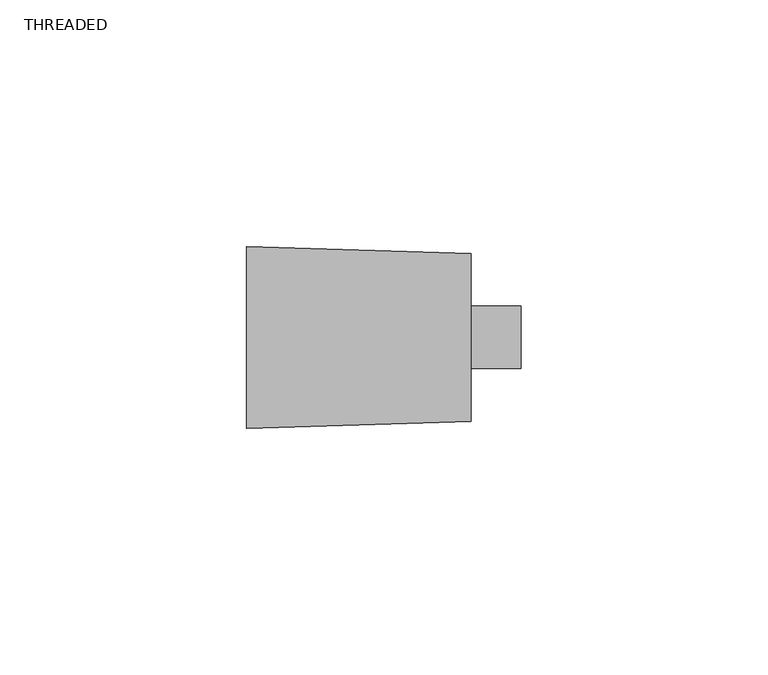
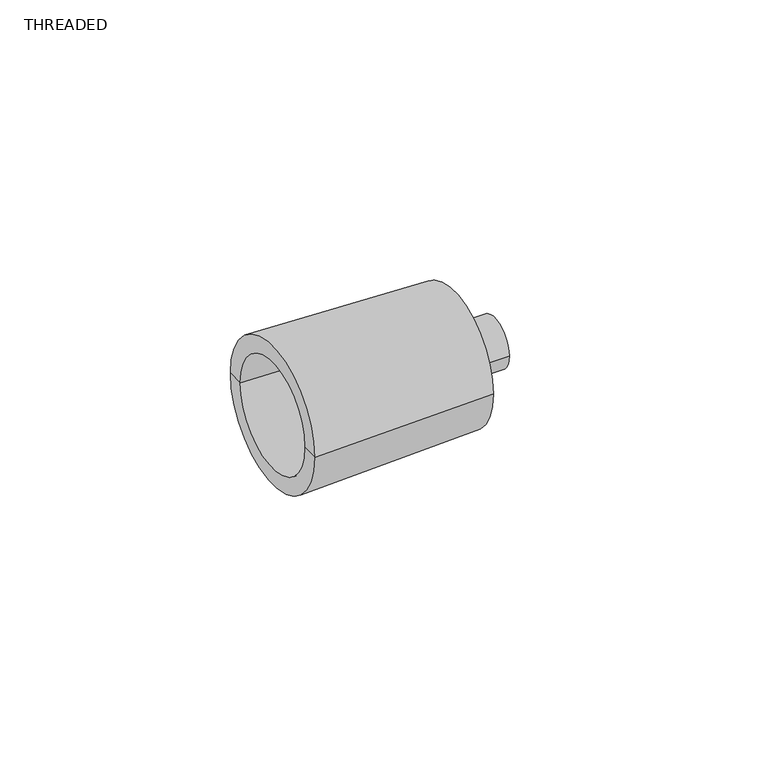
"""IFC4 building model written with IfcOpenShell, lengths in millimetres: pipe fitting geometry, Aquatherm - ISO Plug for Pressure Tests : THREADED."""

from ifc_helpers import new_model, si_unit, frame, origin, place, context, project, spatial, polyline, circle_curve, source, transform, mapped, element, save
from ifc_brep_helpers import plane_surface, cylinder_surface, revolved_surface, advanced_brep


def threaded_21f1202b(model_context):
    return source(origin(), model_context, "Body", "AdvancedBrep", [
        advanced_brep(
        [(27.813, -6.35, 0.0), (27.813, 6.35, 0.0), (17.653, 6.35, 0.0), (17.653, -6.35, 0.0), (15.113, -12.7, 0.0), (15.113, 12.7, 0.0), (-27.813, 14.097, 0.0), (-27.813, -14.097, 0.0), (15.113, 0.0, 0.0), (17.653, -17.018, 0.0), (17.653, 17.018, 0.0), (-27.813, -18.415, 0.0), (-27.813, 18.415, 0.0)],
        [
            (0, 1, circle_curve(frame((27.813, 0.0, 0.0), z_axis=(1.0, 0.0, 0.0), x_axis=(0.0, 1.0, 0.0)), 6.35)),
            (1, 0, circle_curve(frame((27.813, 0.0, 0.0), z_axis=(1.0, 0.0, 0.0), x_axis=(0.0, 1.0, 0.0)), 6.35)),
            (1, 2),
            (2, 3, circle_curve(frame((17.653, 0.0, 0.0), z_axis=(1.0, 0.0, 0.0), x_axis=(0.0, 1.0, 0.0)), 6.35)),
            (3, 0),
            (3, 2, circle_curve(frame((17.653, 0.0, 0.0), z_axis=(1.0, 0.0, 0.0), x_axis=(0.0, 1.0, 0.0)), 6.35)),
            (4, 5, circle_curve(frame((15.113, 0.0, 0.0), z_axis=(1.0, 0.0, 0.0), x_axis=(0.0, 1.0, 0.0)), 12.7)),
            (5, 6),
            (6, 7, circle_curve(frame((-27.813, 0.0, 0.0), z_axis=(-1.0, 0.0, 0.0), x_axis=(0.0, 1.0, 0.0)), 14.097)),
            (7, 4),
            (5, 4, circle_curve(frame((15.113, 0.0, 0.0), z_axis=(1.0, 0.0, 0.0), x_axis=(0.0, 1.0, 0.0)), 12.7)),
            (7, 6, circle_curve(frame((-27.813, 0.0, 0.0), z_axis=(-1.0, 0.0, 0.0), x_axis=(0.0, 1.0, 0.0)), 14.097)),
            (4, 8),
            (8, 5),
            (9, 10, circle_curve(frame((17.653, 0.0, 0.0), z_axis=(1.0, 0.0, 0.0), x_axis=(0.0, 1.0, 0.0)), 17.018)),
            (10, 2),
            (3, 9),
            (10, 9, circle_curve(frame((17.653, 0.0, 0.0), z_axis=(1.0, 0.0, 0.0), x_axis=(0.0, 1.0, 0.0)), 17.018)),
            (9, 11),
            (11, 12, circle_curve(frame((-27.813, 0.0, 0.0), z_axis=(1.0, 0.0, 0.0), x_axis=(0.0, 1.0, 0.0)), 18.415)),
            (12, 10),
            (12, 11, circle_curve(frame((-27.813, 0.0, 0.0), z_axis=(1.0, 0.0, 0.0), x_axis=(0.0, 1.0, 0.0)), 18.415)),
            (6, 12),
            (11, 7),
        ],
        [
            plane_surface(frame((27.813, 0.0, 0.0), z_axis=(1.0, 0.0, 0.0), x_axis=(0.0, 0.0, 1.0))),
            cylinder_surface(frame((17.653, 0.0, 0.0), z_axis=(-1.0, 0.0, 0.0), x_axis=(0.0, 1.0, 0.0)), 6.35),
            revolved_surface(polyline([(-27.813, 14.097, 0.0), (15.113, 12.7, 0.0)]), (-63.3901598, 0.0, 0.0), (-1.0, 0.0, 0.0)),
            plane_surface(frame((15.113, 0.0, 0.0), z_axis=(-1.0, 0.0, 0.0), x_axis=(0.0, 1.0, 0.0))),
            plane_surface(frame((17.653, 0.0, 0.0), z_axis=(1.0, 0.0, 0.0), x_axis=(0.0, 1.0, 0.0))),
            revolved_surface(polyline([(17.653, 17.018, 0.0), (-27.813, 18.415, 0.0)]), (-63.3901598, 0.0, 0.0), (-1.0, 0.0, 0.0)),
            plane_surface(frame((-27.813, 0.0, 0.0), z_axis=(-1.0, 0.0, 0.0), x_axis=(0.0, 1.0, 0.0))),
        ],
        [
            (0, [[1, 2]]),
            (1, [[-2, 3, 4, 5]]),
            (1, [[-1, -5, 6, -3]]),
            (2, [[7, 8, 9, 10]]),
            (2, [[-8, 11, -10, 12]]),
            (3, [[-7, 13, 14]]),
            (3, [[-11, -14, -13]]),
            (4, [[15, 16, -6, 17]]),
            (4, [[18, -17, -4, -16]]),
            (5, [[-15, 19, 20, 21]]),
            (5, [[-18, -21, 22, -19]]),
            (6, [[-9, 23, -20, 24]]),
            (6, [[-12, -24, -22, -23]]),
        ],
    ),
    ])


if __name__ == "__main__":
    model = new_model("IFC4")
    model_context = context("Model", 3, world=origin())
    ifc_project = project(units=[si_unit("LENGTHUNIT", "METRE", prefix="MILLI")], contexts=[model_context])
    site = spatial("IfcSite", under=ifc_project)
    building = spatial("IfcBuilding", under=site)
    placement = place(None, origin())
    threaded_shape = threaded_21f1202b(model_context)
    element("IfcPipeFitting", 1, ObjectType="Aquatherm - ISO Plug for Pressure Tests : THREADED", at=placement, inside=building, context=model_context, shape_type="MappedRepresentation", body=[
        mapped(threaded_shape, transform((0.0, 0.0, 0.0), x_axis=(1.0, 0.0, 0.0), y_axis=(0.0, 1.0, 0.0), z_axis=(0.0, 0.0, 1.0))),
    ])
    save(model, "model.ifc")
